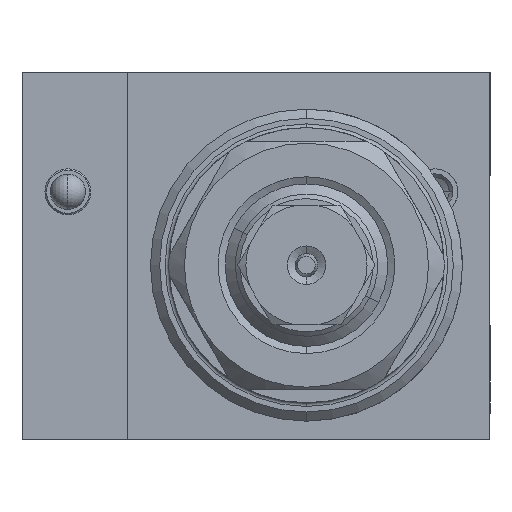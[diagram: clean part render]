
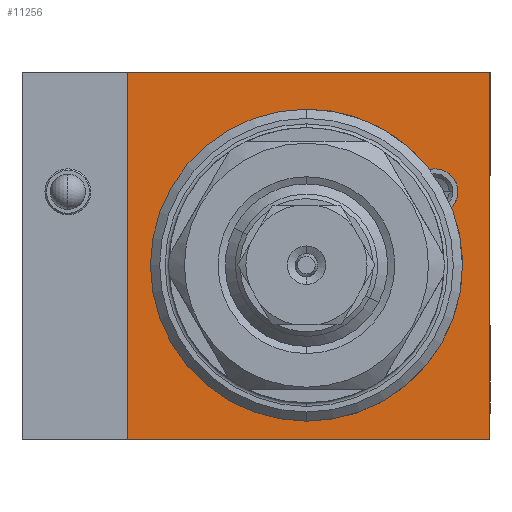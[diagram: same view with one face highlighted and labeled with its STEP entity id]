
A CAD part, left-side view. The second image highlights one B-rep face of the part: STEP entity #11256.
In plain terms, the highlighted planar face has unit normal (-1, 0, 0).
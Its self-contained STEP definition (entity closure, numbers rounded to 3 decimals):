
#355 = VERTEX_POINT ( 'NONE', #6224 ) ;
#541 = VERTEX_POINT ( 'NONE', #11113 ) ;
#577 = VERTEX_POINT ( 'NONE', #9923 ) ;
#624 = ORIENTED_EDGE ( 'NONE', *, *, #5484, .F. ) ;
#667 = AXIS2_PLACEMENT_3D ( 'NONE', #9254, #2010, #10391 ) ;
#717 = CIRCLE ( 'NONE', #8616, 2.5 ) ;
#732 = CARTESIAN_POINT ( 'NONE',  ( 0., 0.25, -1. ) ) ;
#1252 = CARTESIAN_POINT ( 'NONE',  ( 0., -13.75, 7. ) ) ;
#1577 = CARTESIAN_POINT ( 'NONE',  ( 0., 19.75, -20. ) ) ;
#1752 = DIRECTION ( 'NONE',  ( -1., 0., 0. ) ) ;
#1991 = DIRECTION ( 'NONE',  ( 0., 0., 1. ) ) ;
#2010 = DIRECTION ( 'NONE',  ( -1., 0., 0. ) ) ;
#2067 = ORIENTED_EDGE ( 'NONE', *, *, #12933, .F. ) ;
#2431 = VECTOR ( 'NONE', #15267, 1000. ) ;
#2493 = DIRECTION ( 'NONE',  ( 0., 0., 1. ) ) ;
#2564 = CARTESIAN_POINT ( 'NONE',  ( 0., -19.75, -20. ) ) ;
#2705 = VERTEX_POINT ( 'NONE', #7435 ) ;
#2776 = DIRECTION ( 'NONE',  ( 1., 0., 0. ) ) ;
#2822 = DIRECTION ( 'NONE',  ( 0., 0., 1. ) ) ;
#3252 = CARTESIAN_POINT ( 'NONE',  ( 0., -19.75, 20. ) ) ;
#4023 = EDGE_CURVE ( 'NONE', #541, #355, #5909, .T. ) ;
#4039 = ORIENTED_EDGE ( 'NONE', *, *, #5352, .F. ) ;
#4377 = CARTESIAN_POINT ( 'NONE',  ( 0., -19.75, 20. ) ) ;
#4668 = CARTESIAN_POINT ( 'NONE',  ( 0., 0.25, -1. ) ) ;
#4672 = EDGE_LOOP ( 'NONE', ( #15116, #4039, #7671, #624, #5195 ) ) ;
#5140 = VECTOR ( 'NONE', #2822, 1000. ) ;
#5186 = LINE ( 'NONE', #13251, #8328 ) ;
#5195 = ORIENTED_EDGE ( 'NONE', *, *, #14899, .F. ) ;
#5352 = EDGE_CURVE ( 'NONE', #355, #577, #13565, .T. ) ;
#5484 = EDGE_CURVE ( 'NONE', #13305, #541, #13152, .T. ) ;
#5846 = AXIS2_PLACEMENT_3D ( 'NONE', #732, #9235, #1991 ) ;
#5870 = DIRECTION ( 'NONE',  ( 0., 0., 1. ) ) ;
#5909 = CIRCLE ( 'NONE', #9892, 17. ) ;
#6154 = LINE ( 'NONE', #3252, #15399 ) ;
#6224 = CARTESIAN_POINT ( 'NONE',  ( 0., 0.25, -18. ) ) ;
#6619 = FACE_OUTER_BOUND ( 'NONE', #15180, .T. ) ;
#6847 = CIRCLE ( 'NONE', #667, 2.5 ) ;
#7317 = EDGE_CURVE ( 'NONE', #577, #10938, #6847, .T. ) ;
#7435 = CARTESIAN_POINT ( 'NONE',  ( 0., 19.75, -20. ) ) ;
#7671 = ORIENTED_EDGE ( 'NONE', *, *, #4023, .F. ) ;
#8181 = EDGE_CURVE ( 'NONE', #13697, #12400, #6154, .T. ) ;
#8313 = CARTESIAN_POINT ( 'NONE',  ( 0., 19.75, 20. ) ) ;
#8328 = VECTOR ( 'NONE', #9544, 1000. ) ;
#8616 = AXIS2_PLACEMENT_3D ( 'NONE', #1252, #9706, #2493 ) ;
#8655 = LINE ( 'NONE', #1577, #5140 ) ;
#9013 = CARTESIAN_POINT ( 'NONE',  ( 0., 0.25, -1. ) ) ;
#9235 = DIRECTION ( 'NONE',  ( -1., 0., 0. ) ) ;
#9254 = CARTESIAN_POINT ( 'NONE',  ( 0., -13.75, 7. ) ) ;
#9544 = DIRECTION ( 'NONE',  ( 0., 0., -1. ) ) ;
#9706 = DIRECTION ( 'NONE',  ( -1., 0., 0. ) ) ;
#9892 = AXIS2_PLACEMENT_3D ( 'NONE', #9013, #1752, #10141 ) ;
#9916 = PLANE ( 'NONE',  #11848 ) ;
#9923 = CARTESIAN_POINT ( 'NONE',  ( 0., -15.552, 5.268 ) ) ;
#9964 = CARTESIAN_POINT ( 'NONE',  ( 0., 19.75, 20. ) ) ;
#10141 = DIRECTION ( 'NONE',  ( 0., 0., 1. ) ) ;
#10391 = DIRECTION ( 'NONE',  ( 0., 0., 1. ) ) ;
#10499 = CARTESIAN_POINT ( 'NONE',  ( 0., -13.75, 9.5 ) ) ;
#10559 = AXIS2_PLACEMENT_3D ( 'NONE', #4668, #12978, #5870 ) ;
#10938 = VERTEX_POINT ( 'NONE', #10499 ) ;
#11113 = CARTESIAN_POINT ( 'NONE',  ( 0., 0.25, 16. ) ) ;
#11122 = DIRECTION ( 'NONE',  ( 0., 0., -1. ) ) ;
#11172 = VERTEX_POINT ( 'NONE', #2564 ) ;
#11256 = ADVANCED_FACE ( 'NONE', ( #6619, #12899 ), #9916, .F. ) ;
#11302 = EDGE_CURVE ( 'NONE', #2705, #13697, #8655, .T. ) ;
#11848 = AXIS2_PLACEMENT_3D ( 'NONE', #9964, #2776, #11122 ) ;
#12400 = VERTEX_POINT ( 'NONE', #4377 ) ;
#12717 = DIRECTION ( 'NONE',  ( 0., -1., 0. ) ) ;
#12899 = FACE_BOUND ( 'NONE', #4672, .T. ) ;
#12933 = EDGE_CURVE ( 'NONE', #11172, #2705, #14876, .T. ) ;
#12966 = ORIENTED_EDGE ( 'NONE', *, *, #11302, .F. ) ;
#12978 = DIRECTION ( 'NONE',  ( -1., 0., 0. ) ) ;
#13152 = CIRCLE ( 'NONE', #10559, 17. ) ;
#13251 = CARTESIAN_POINT ( 'NONE',  ( 0., -19.75, -20. ) ) ;
#13305 = VERTEX_POINT ( 'NONE', #15362 ) ;
#13565 = CIRCLE ( 'NONE', #5846, 17. ) ;
#13697 = VERTEX_POINT ( 'NONE', #8313 ) ;
#13788 = EDGE_CURVE ( 'NONE', #12400, #11172, #5186, .T. ) ;
#14466 = ORIENTED_EDGE ( 'NONE', *, *, #13788, .F. ) ;
#14876 = LINE ( 'NONE', #15330, #2431 ) ;
#14899 = EDGE_CURVE ( 'NONE', #10938, #13305, #717, .T. ) ;
#15116 = ORIENTED_EDGE ( 'NONE', *, *, #7317, .F. ) ;
#15180 = EDGE_LOOP ( 'NONE', ( #15258, #12966, #2067, #14466 ) ) ;
#15258 = ORIENTED_EDGE ( 'NONE', *, *, #8181, .F. ) ;
#15267 = DIRECTION ( 'NONE',  ( 0., 1., 0. ) ) ;
#15330 = CARTESIAN_POINT ( 'NONE',  ( 0., -19.75, -20. ) ) ;
#15362 = CARTESIAN_POINT ( 'NONE',  ( 0., -13.173, 9.432 ) ) ;
#15399 = VECTOR ( 'NONE', #12717, 1000. ) ;
